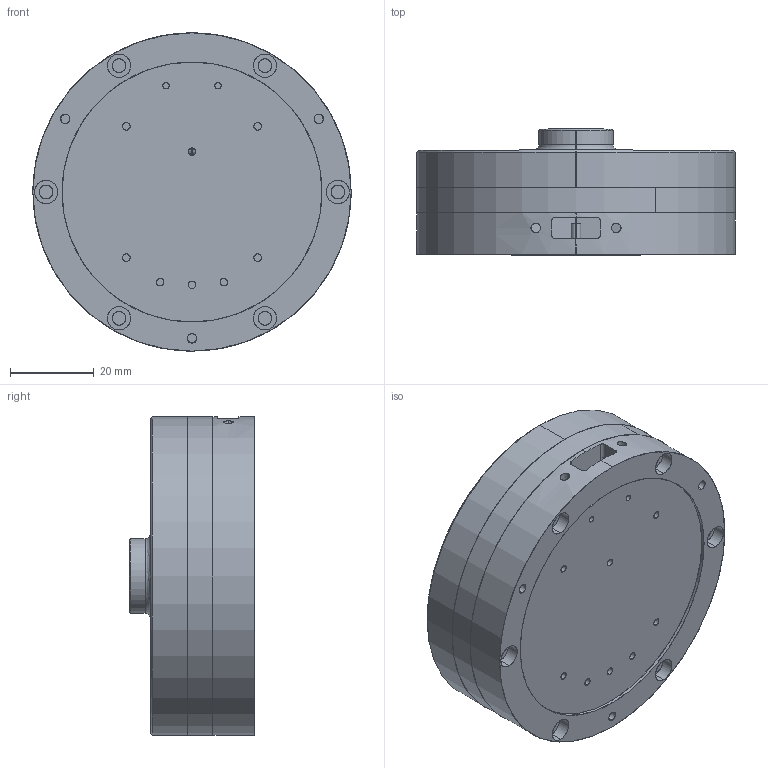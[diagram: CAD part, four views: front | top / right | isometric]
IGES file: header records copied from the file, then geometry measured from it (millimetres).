
Start section: SolidWorks IGES file using analytic representation for surfaces
Global section: file name: C:\Documents and Settings\Soundar\My Documents\Solidworks Files\iLoad TR\iload-tr--50#-assembly-outline.IGS; native system: SolidWorks 2009; preprocessor: SolidWorks 2009; author: Soundar; date: 120430.191401; units: inch
Bounding box: 76.2 x 30.1 x 76.2 mm (x, y, z)
Surface area: 23551.7 mm2 (no closed solid volume)
Topology: 0 solids, 0 shells, 94 faces, 3822 edges, 3822 vertices
Faces by surface type: revolution 74, bspline 20
